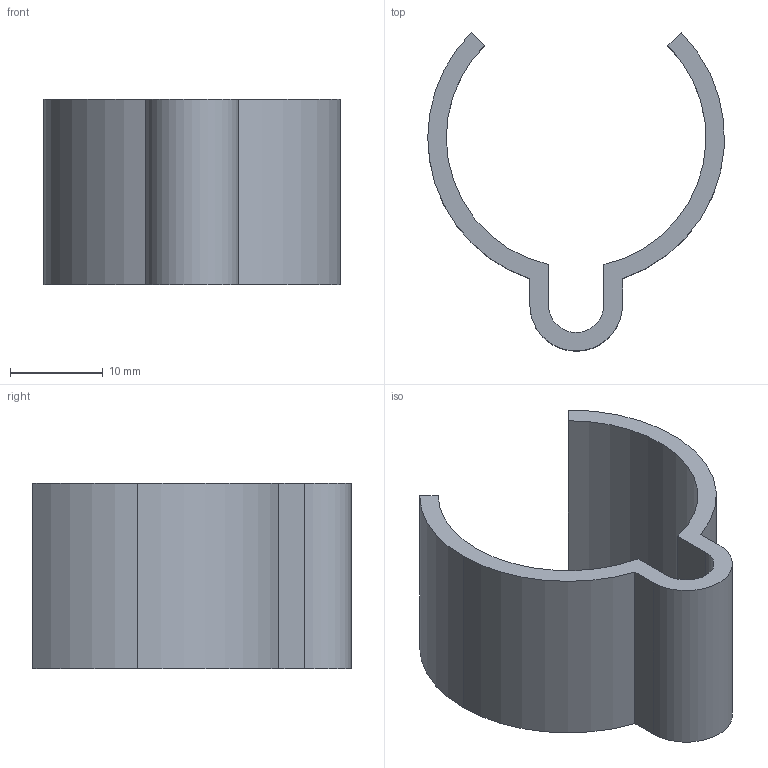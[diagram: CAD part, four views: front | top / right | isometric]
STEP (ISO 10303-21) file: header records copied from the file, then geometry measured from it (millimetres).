
FILE_DESCRIPTION (( 'STEP AP203' ), '1' );
FILE_NAME ('015.300.011.STEP', '2016-10-24T08:56:15', ( '' ), ( '' ), 'SwSTEP 2.0', 'SolidWorks 2016', '' );
FILE_SCHEMA (( 'CONFIG_CONTROL_DESIGN' ));
Length unit declared in the file: millimetre
Products named in the file (1): 015.300.011
Bounding box: 31.97 x 34.31 x 20 mm (x, y, z)
Volume: 3290 mm3; surface area: 3699.8 mm2
Topology: 1 solids, 1 shells, 16 faces, 42 edges, 28 vertices
Faces by surface type: cylinder 8, plane 8
Entity records: 579 total; most frequent: DIRECTION 92, CARTESIAN_POINT 87, ORIENTED_EDGE 84, EDGE_CURVE 42, AXIS2_PLACEMENT_3D 33, VERTEX_POINT 28, VECTOR 26, LINE 26
